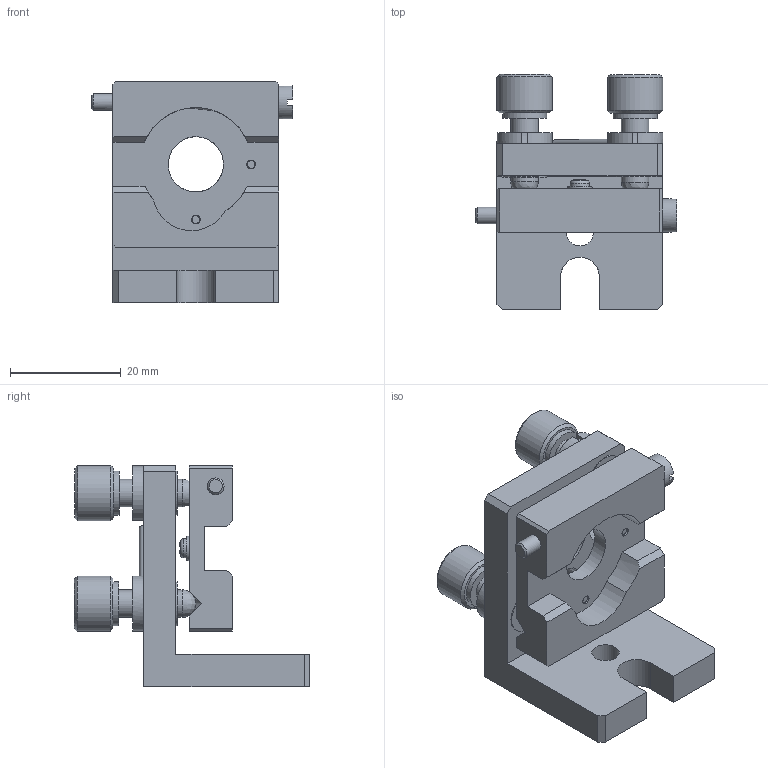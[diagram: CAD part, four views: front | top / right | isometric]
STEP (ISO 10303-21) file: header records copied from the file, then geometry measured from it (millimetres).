
FILE_DESCRIPTION((''),'2;1');
FILE_NAME('T:\Public\7_3次元データ\1図面ﾃﾞｰﾀ\2_OpticalHard\01_国内製品\2_Holders\MHF\MHF-20F\MHF-20F.stp','2009-02-05T10:37:21',('okegawa'),(''),'Autodesk Inventor 2008','Autodesk Inventor 2008','');
FILE_SCHEMA(('AUTOMOTIVE_DESIGN { 1 0 10303 214 1 1 1 1 }'));
Length unit declared in the file: millimetre
Products named in the file (1): MHF-20F-C1-S04
Bounding box: 36.4 x 42.6 x 40 mm (x, y, z)
Volume: 15898.2 mm3; surface area: 9857.3 mm2
Topology: 1 solids, 6 shells, 199 faces, 513 edges, 335 vertices
Faces by surface type: plane 100, cylinder 44, bspline 27, cone 21, sphere 5, torus 2
Full cylindrical faces by diameter (mm): 2 x3, 3 x2, 4 x1, 5 x4, 6 x1, 8 x4, 10 x2
Entity records: 6053 total; most frequent: CARTESIAN_POINT 1509, DIRECTION 953, ORIENTED_EDGE 842, EDGE_CURVE 421, AXIS2_PLACEMENT_3D 368, VERTEX_POINT 304, EDGE_LOOP 301, VECTOR 217
